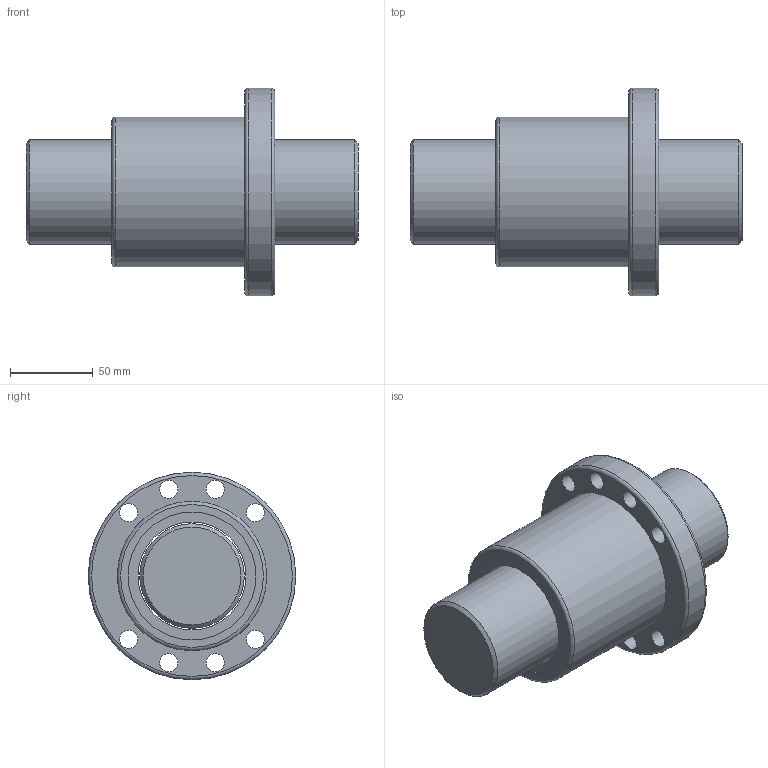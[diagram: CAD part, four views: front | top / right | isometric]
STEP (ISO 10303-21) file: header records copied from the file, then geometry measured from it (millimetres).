
FILE_DESCRIPTION(/* description */ (''),/* implementation_level */ '2;1');
FILE_NAME(/* name */ 'SFU6310',/* time_stamp */ '2007-10-26T13:33:39+08:00',/* author */ (''),/* organization */ (''),/* preprocessor_version */ 'ST-DEVELOPER v9',/* originating_system */ 'EDS PLM SOLUTIONS - UNIGRAPHICS NX 1.0',/* authorisation */ '');
FILE_SCHEMA (('CONFIG_CONTROL_DESIGN'));
Length unit declared in the file: millimetre
Products named in the file (1): FANNDA0400ii
Bounding box: 200 x 125 x 125 mm (x, y, z)
Volume: 1010040.2 mm3; surface area: 127686.9 mm2
Topology: 4 solids, 4 shells, 34 faces, 72 edges, 49 vertices
Faces by surface type: cylinder 18, plane 11, torus 3, cone 2
Full cylindrical faces by diameter (mm): 11 x8, 63 x1, 65 x3, 77 x4, 90 x1, 125 x1
Entity records: 878 total; most frequent: DIRECTION 152, CARTESIAN_POINT 117, EDGE_LOOP 82, ORIENTED_EDGE 82, AXIS2_PLACEMENT_3D 76, FACE_BOUND 69, VERTEX_POINT 41, EDGE_CURVE 41
